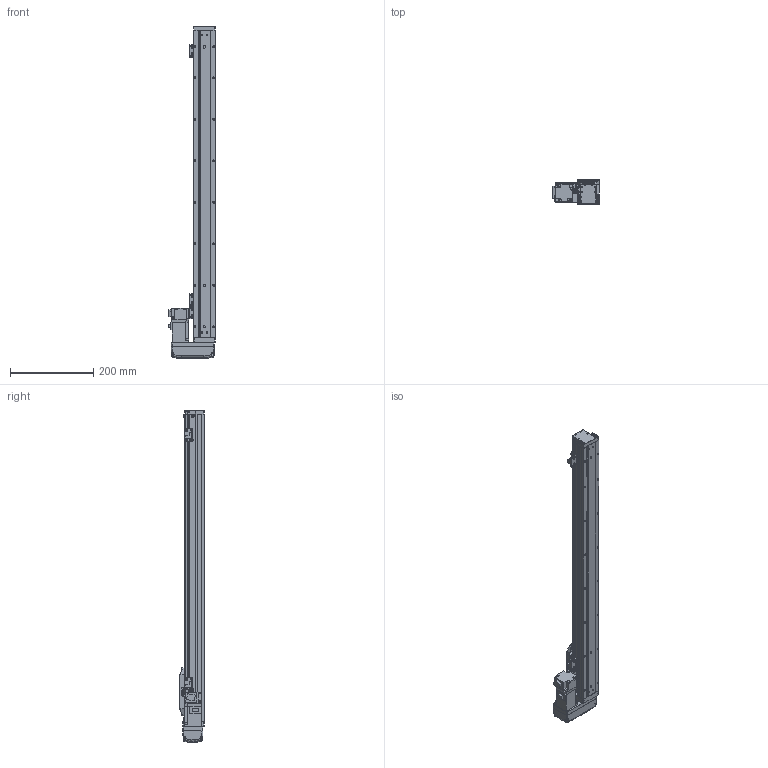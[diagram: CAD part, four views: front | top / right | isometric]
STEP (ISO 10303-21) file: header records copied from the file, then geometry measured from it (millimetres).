
FILE_DESCRIPTION (( 'STEP AP203' ), '1' );
FILE_NAME ('GTH5-600-BL-M10-C4.step', '2022-09-23T00:45:04', ( '微软用户' ), ( '微软中国' ), 'SwSTEP 2.0', 'SolidWorks 2020', '' );
FILE_SCHEMA (( 'CONFIG_CONTROL_DESIGN' ));
Length unit declared in the file: millimetre
Products named in the file (19): BTH-M3X5X6; GBT96.1-2002 3×0.8; GTH50-026; GTH50-001_600; GTH50-024; GTH5-600-BL-M10-C4; GBT 70.1-M4×16; GBT 70.1-M2.5×6; GTH50-003; GTH50-028; GTH50-006; GTH50-013; GTH50-022-1; GTH50-004; GTH50-023; HG-KR13; GBT 70.3-M3℅6; GBT 70.1-M3℅6; GTH50-027-1_BTHA50-027-2
Assembly tree (57 placements, depth 2):
  GTH5-600-BL-M10-C4
    GTH50-006
    GTH50-004
    GBT 70.3-M3℅6  x4
    BTH-M3X5X6  x8
    GTH50-001_600
    GBT 70.1-M4×16  x8
    GTH50-003
    GTH50-013
    GTH50-023  x3
    GBT 70.1-M3℅6  x12
    GBT96.1-2002 3×0.8  x6
    GTH50-024  x3
    GBT 70.1-M2.5×6  x2
    GTH50-028  x2
    GTH50-022-1
    HG-KR13
    GTH50-027-1_BTHA50-027-2
    GTH50-026
Bounding box: 113.8 x 60 x 800 mm (x, y, z)
Volume: 1817022.2 mm3; surface area: 304600.4 mm2
Topology: 59 solids, 59 shells, 2160 faces, 5016 edges, 3076 vertices
Faces by surface type: plane 1142, cylinder 589, cone 219, torus 162, bspline 40, sphere 8
Entity records: 40160 total; most frequent: CARTESIAN_POINT 7947, DIRECTION 6185, ORIENTED_EDGE 5946, EDGE_CURVE 2973, AXIS2_PLACEMENT_3D 2152, VECTOR 1881, LINE 1881, VERTEX_POINT 1878
